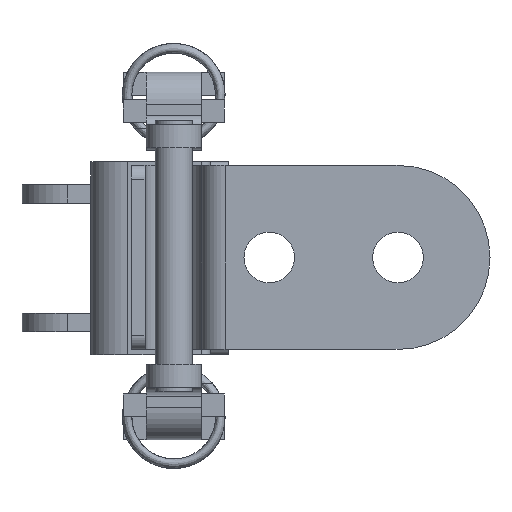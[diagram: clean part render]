
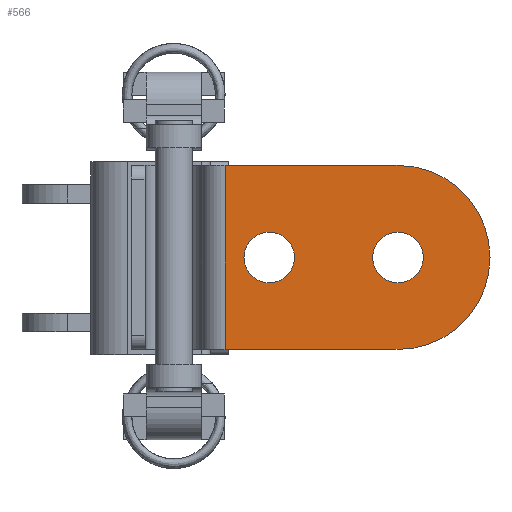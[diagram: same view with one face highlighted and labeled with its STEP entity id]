
A CAD part, left-side view. The second image highlights one B-rep face of the part: STEP entity #566.
In plain terms, the highlighted planar face has unit normal (-1, 0, 0) as drawn and (0, 1, 0) by its records, which use the part's own axes.
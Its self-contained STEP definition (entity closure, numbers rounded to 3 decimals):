
#464 = VERTEX_POINT ( 'NONE', #2019 ) ;
#503 = VERTEX_POINT ( 'NONE', #2715 ) ;
#504 = EDGE_CURVE ( 'NONE', #464, #503, #2706, .T. ) ;
#512 = VERTEX_POINT ( 'NONE', #2782 ) ;
#514 = VERTEX_POINT ( 'NONE', #2779 ) ;
#516 = EDGE_CURVE ( 'NONE', #514, #512, #2777, .T. ) ;
#545 = ORIENTED_EDGE ( 'NONE', *, *, #570, .T. ) ;
#546 = VERTEX_POINT ( 'NONE', #3294 ) ;
#547 = EDGE_CURVE ( 'NONE', #546, #565, #3424, .T. ) ;
#549 = ORIENTED_EDGE ( 'NONE', *, *, #547, .F. ) ;
#550 = EDGE_CURVE ( 'NONE', #567, #546, #3359, .T. ) ;
#552 = ORIENTED_EDGE ( 'NONE', *, *, #550, .F. ) ;
#557 = EDGE_CURVE ( 'NONE', #503, #464, #3420, .T. ) ;
#558 = ORIENTED_EDGE ( 'NONE', *, *, #516, .F. ) ;
#562 = ORIENTED_EDGE ( 'NONE', *, *, #504, .F. ) ;
#563 = EDGE_LOOP ( 'NONE', ( #568, #562 ) ) ;
#564 = EDGE_LOOP ( 'NONE', ( #573, #558 ) ) ;
#565 = VERTEX_POINT ( 'NONE', #2776 ) ;
#566 = ADVANCED_FACE ( 'NONE', ( #2751, #2800, #2801 ), #2796, .T. ) ;
#567 = VERTEX_POINT ( 'NONE', #3398 ) ;
#568 = ORIENTED_EDGE ( 'NONE', *, *, #557, .F. ) ;
#569 = EDGE_LOOP ( 'NONE', ( #577, #545, #549, #552 ) ) ;
#570 = EDGE_CURVE ( 'NONE', #575, #565, #3406, .T. ) ;
#571 = EDGE_CURVE ( 'NONE', #512, #514, #3444, .T. ) ;
#572 = EDGE_CURVE ( 'NONE', #567, #575, #3447, .T. ) ;
#573 = ORIENTED_EDGE ( 'NONE', *, *, #571, .F. ) ;
#575 = VERTEX_POINT ( 'NONE', #3445 ) ;
#577 = ORIENTED_EDGE ( 'NONE', *, *, #572, .T. ) ;
#2019 = CARTESIAN_POINT ( 'NONE',  ( 10., 1.5, -12.75 ) ) ;
#2706 = CIRCLE ( 'NONE', #2744, 2.75 ) ;
#2714 = CARTESIAN_POINT ( 'NONE',  ( 10., 1.5, -10. ) ) ;
#2715 = CARTESIAN_POINT ( 'NONE',  ( 10., 1.5, -7.25 ) ) ;
#2742 = DIRECTION ( 'NONE',  ( 0., 0., 1. ) ) ;
#2743 = DIRECTION ( 'NONE',  ( 0., 1., 0. ) ) ;
#2744 = AXIS2_PLACEMENT_3D ( 'NONE', #2714, #2743, #2742 ) ;
#2751 = FACE_BOUND ( 'NONE', #563, .T. ) ;
#2752 = DIRECTION ( 'NONE',  ( 0., 1., 0. ) ) ;
#2753 = CARTESIAN_POINT ( 'NONE',  ( 0., 1.5, -20. ) ) ;
#2758 = AXIS2_PLACEMENT_3D ( 'NONE', #2753, #2752, #3304 ) ;
#2770 = DIRECTION ( 'NONE',  ( 0., 0., 1. ) ) ;
#2771 = DIRECTION ( 'NONE',  ( 0., 1., 0. ) ) ;
#2772 = CARTESIAN_POINT ( 'NONE',  ( 24., 1.5, -10. ) ) ;
#2773 = AXIS2_PLACEMENT_3D ( 'NONE', #2772, #2771, #2770 ) ;
#2776 = CARTESIAN_POINT ( 'NONE',  ( 10., 1.5, 0. ) ) ;
#2777 = CIRCLE ( 'NONE', #2773, 2.75 ) ;
#2779 = CARTESIAN_POINT ( 'NONE',  ( 24., 1.5, -12.75 ) ) ;
#2782 = CARTESIAN_POINT ( 'NONE',  ( 24., 1.5, -7.25 ) ) ;
#2796 = PLANE ( 'NONE',  #2758 ) ;
#2800 = FACE_BOUND ( 'NONE', #564, .T. ) ;
#2801 = FACE_OUTER_BOUND ( 'NONE', #569, .T. ) ;
#3294 = CARTESIAN_POINT ( 'NONE',  ( 28.8, 1.5, 0. ) ) ;
#3299 = DIRECTION ( 'NONE',  ( 0., 1., 0. ) ) ;
#3304 = DIRECTION ( 'NONE',  ( 0., 0., 1. ) ) ;
#3359 = LINE ( 'NONE', #3413, #3412 ) ;
#3389 = DIRECTION ( 'NONE',  ( 0., 0., 1. ) ) ;
#3393 = CARTESIAN_POINT ( 'NONE',  ( 10., 1.5, -10. ) ) ;
#3394 = AXIS2_PLACEMENT_3D ( 'NONE', #3393, #3299, #3389 ) ;
#3398 = CARTESIAN_POINT ( 'NONE',  ( 28.8, 1.5, -20. ) ) ;
#3404 = DIRECTION ( 'NONE',  ( 0., 0., 1. ) ) ;
#3405 = DIRECTION ( 'NONE',  ( 0., 1., 0. ) ) ;
#3406 = CIRCLE ( 'NONE', #3394, 10. ) ;
#3407 = CARTESIAN_POINT ( 'NONE',  ( 10., 1.5, -10. ) ) ;
#3408 = AXIS2_PLACEMENT_3D ( 'NONE', #3407, #3405, #3404 ) ;
#3411 = DIRECTION ( 'NONE',  ( 0., 0., 1. ) ) ;
#3412 = VECTOR ( 'NONE', #3411, 1000. ) ;
#3413 = CARTESIAN_POINT ( 'NONE',  ( 28.8, 1.5, -20. ) ) ;
#3420 = CIRCLE ( 'NONE', #3408, 2.75 ) ;
#3421 = DIRECTION ( 'NONE',  ( -1., 0., 0. ) ) ;
#3422 = VECTOR ( 'NONE', #3421, 1000. ) ;
#3423 = CARTESIAN_POINT ( 'NONE',  ( 0., 1.5, 0. ) ) ;
#3424 = LINE ( 'NONE', #3423, #3422 ) ;
#3435 = DIRECTION ( 'NONE',  ( -1., 0., 0. ) ) ;
#3436 = VECTOR ( 'NONE', #3435, 1000. ) ;
#3440 = DIRECTION ( 'NONE',  ( 0., 0., 1. ) ) ;
#3441 = DIRECTION ( 'NONE',  ( 0., 1., 0. ) ) ;
#3442 = CARTESIAN_POINT ( 'NONE',  ( 24., 1.5, -10. ) ) ;
#3443 = AXIS2_PLACEMENT_3D ( 'NONE', #3442, #3441, #3440 ) ;
#3444 = CIRCLE ( 'NONE', #3443, 2.75 ) ;
#3445 = CARTESIAN_POINT ( 'NONE',  ( 10., 1.5, -20. ) ) ;
#3446 = CARTESIAN_POINT ( 'NONE',  ( 0., 1.5, -20. ) ) ;
#3447 = LINE ( 'NONE', #3446, #3436 ) ;
